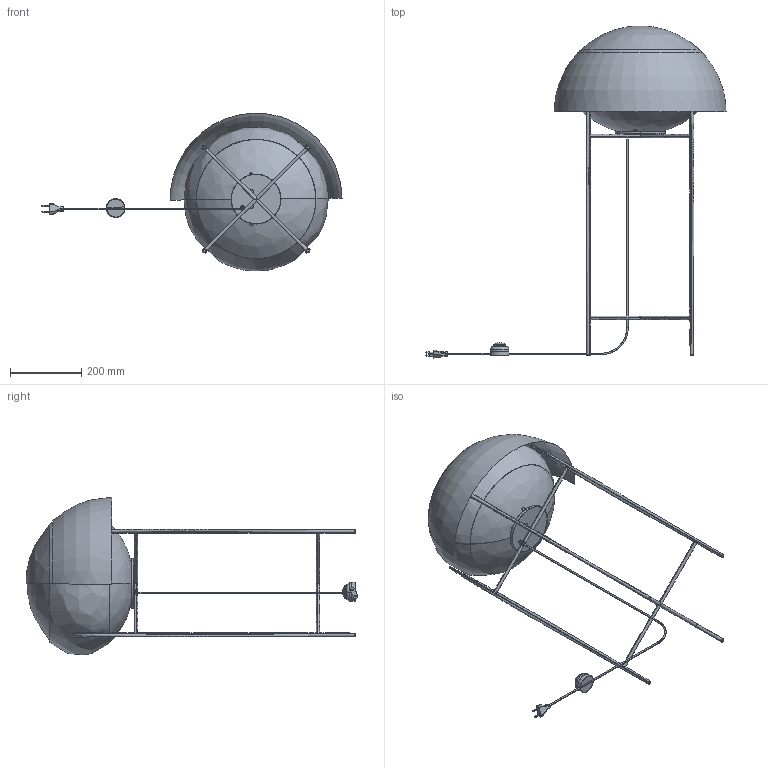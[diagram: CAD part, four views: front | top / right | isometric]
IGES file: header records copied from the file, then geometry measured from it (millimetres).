
Start section: SolidWorks IGES file using analytic representation for surfaces
Global section: file name: E:\3D lampy\Nuage\Nuage_9750.IGS; native system: SolidWorks 2016; preprocessor: SolidWorks 2016; author: Asia; date: 170928.152023; units: millimetre
Bounding box: 841.93 x 931.37 x 442.11 mm (x, y, z)
Surface area: 1209989 mm2 (no closed solid volume)
Topology: 0 solids, 0 shells, 655 faces, 9753 edges, 9747 vertices
Faces by surface type: bspline 347, revolution 308
